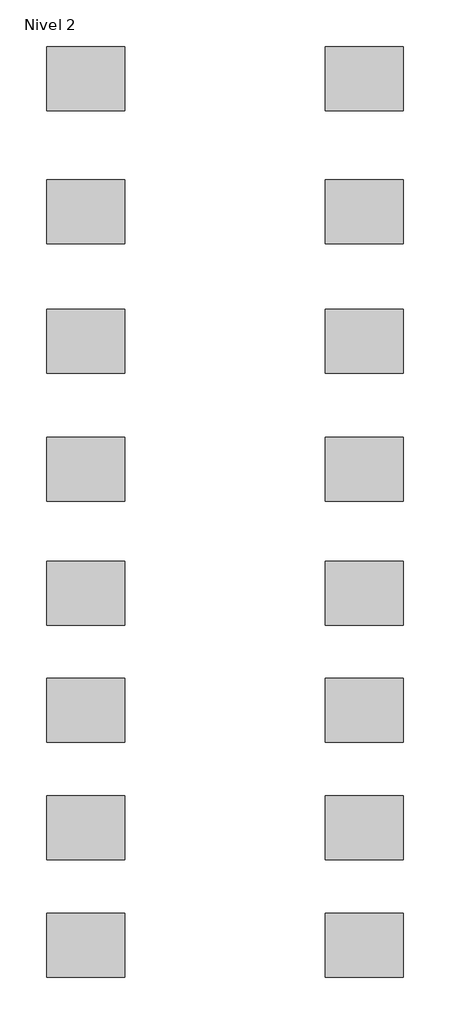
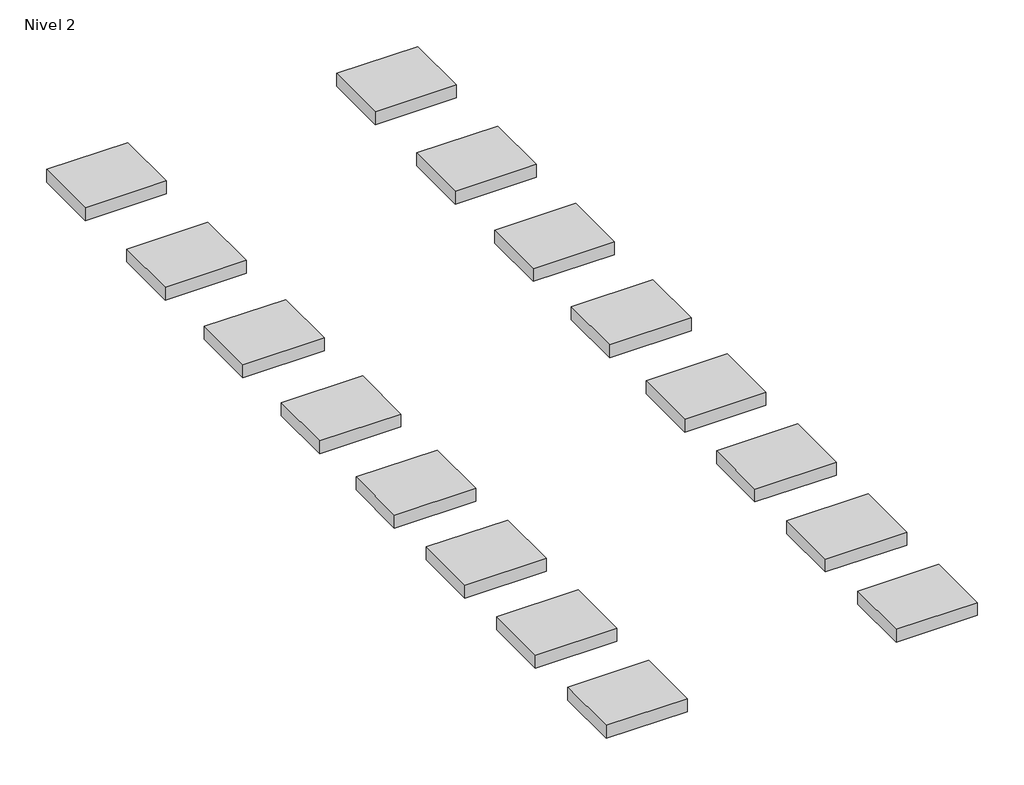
# One storey: 16 furniture elements.
"""IFC4 building model written with IfcOpenShell, lengths in millimetres."""

import ifcopenshell
import ifcopenshell.guid

model = None  # the IFC model being written
_history = None  # IfcOwnerHistory: only IFC2X3 demands one
_inside = {}  # id of a spatial element -> (the spatial element, [elements in it])
_under = {}  # id of a project, library or spatial element -> (it, [spatial elements below it])
_declared = {}  # id of a project -> (the project, [libraries it declares])
_typed = {}  # id of a type object -> (the type object, [elements of that type])
_made_of = {}  # id of a material, layer set ... -> (it, [elements and type objects made of it])


def new_model(schema):
    """Start an empty IFC model of exactly this schema.

    Asked for "IFC4X3", IfcOpenShell would pick the latest addendum, in which some entities
    have other attributes; the version numbers below select the first issue.
    IFC2X3 requires an IfcOwnerHistory on every rooted entity: one is made here for all.
    """
    global model, _history
    if schema == "IFC4X3":
        model = ifcopenshell.file(schema_version=(4, 3, 0, 0))
    else:
        model = ifcopenshell.file(schema=schema)
    _inside.clear()
    _under.clear()
    _declared.clear()
    _typed.clear()
    _made_of.clear()
    _history = None
    if model.schema == "IFC2X3":
        org = make("IfcOrganization", Name="unknown")
        user = make(
            "IfcPersonAndOrganization",
            ThePerson=make("IfcPerson", FamilyName="unknown"),
            TheOrganization=org,
        )
        app = make(
            "IfcApplication",
            ApplicationDeveloper=org,
            Version="unknown",
            ApplicationFullName="unknown",
            ApplicationIdentifier="unknown",
        )
        _history = make(
            "IfcOwnerHistory",
            OwningUser=user,
            OwningApplication=app,
            ChangeAction="ADDED",
            CreationDate=0,
        )
    return model


def make(cls, **values):
    """One entity of the class cls with the attributes given. An attribute that is None is left unset."""
    return model.create_entity(
        cls, **{name: value for name, value in values.items() if value is not None}
    )


def rooted(cls, **values):
    """An entity with a GlobalId (a new one), such as an element, a storey or a relation."""
    return make(cls, GlobalId=ifcopenshell.guid.new(), OwnerHistory=_history, **values)


def si_unit(unit_type, name, prefix=None):
    """IfcSIUnit, for example si_unit("LENGTHUNIT", "METRE", prefix="MILLI")."""
    return make("IfcSIUnit", UnitType=unit_type, Prefix=prefix, Name=name)


def assignment(units):
    """IfcUnitAssignment: the units of a project."""
    return None if units is None else make("IfcUnitAssignment", Units=units)


def point(xyz):
    """IfcCartesianPoint."""
    return None if xyz is None else make("IfcCartesianPoint", Coordinates=xyz)


def direction(xyz):
    """IfcDirection."""
    return None if xyz is None else make("IfcDirection", DirectionRatios=xyz)


def frame(location, z_axis=None, x_axis=None):
    """IfcAxis2Placement3D, a coordinate frame: its origin and axes. An axis left out is left unset."""
    return make(
        "IfcAxis2Placement3D",
        Location=point(location),
        Axis=direction(z_axis),
        RefDirection=direction(x_axis),
    )


def origin():
    """The frame at (0, 0, 0) with its axes left unset."""
    return frame((0.0, 0.0, 0.0))


def origin_with_axes():
    """The frame at (0, 0, 0) with the z axis (0, 0, 1) and the x axis (1, 0, 0) written out."""
    return frame((0.0, 0.0, 0.0), z_axis=(0.0, 0.0, 1.0), x_axis=(1.0, 0.0, 0.0))


def place(relative_to, where):
    """IfcLocalPlacement: puts the frame where relative to a parent placement (None: the world)."""
    return make(
        "IfcLocalPlacement", PlacementRelTo=relative_to, RelativePlacement=where
    )


def context(
    kind, dimensions, precision=None, world=None, true_north=None, identifier=None
):
    """IfcGeometricRepresentationContext, for example the 3D "Model" context."""
    return make(
        "IfcGeometricRepresentationContext",
        ContextIdentifier=identifier,
        ContextType=kind,
        CoordinateSpaceDimension=dimensions,
        Precision=precision,
        WorldCoordinateSystem=world,
        TrueNorth=true_north,
    )


def project(units=None, contexts=None):
    """IfcProject with its units and contexts."""
    return rooted(
        "IfcProject",
        Name="project",
        RepresentationContexts=contexts,
        UnitsInContext=assignment(units),
    )


def spatial(cls, under=None, at=None, **own):
    """A site, building, storey or space (cls), placed at a placement, below another one or the project."""
    s = rooted(cls, ObjectPlacement=at, **own)
    if under is not None:
        _under.setdefault(under.id(), (under, []))[1].append(s)
    return s


def polyline(points):
    """IfcPolyline through the points."""
    return make("IfcPolyline", Points=[point(p) for p in points])


def outline(outer, holes=None, kind="AREA"):
    """IfcArbitraryClosedProfileDef: a profile drawn as a closed curve; with holes, ...WithVoids."""
    if holes is None:
        return make("IfcArbitraryClosedProfileDef", ProfileType=kind, OuterCurve=outer)
    return make(
        "IfcArbitraryProfileDefWithVoids",
        ProfileType=kind,
        OuterCurve=outer,
        InnerCurves=holes,
    )


def extrude(swept, where, along, depth):
    """IfcExtrudedAreaSolid: the profile swept, set in the frame where, extruded along a direction by depth."""
    return make(
        "IfcExtrudedAreaSolid",
        SweptArea=swept,
        Position=where,
        ExtrudedDirection=direction(along),
        Depth=depth,
    )


def shape(context_of_items, identifier, shape_type, items):
    """IfcShapeRepresentation: the items that make up one representation, for example the "Body"."""
    return make(
        "IfcShapeRepresentation",
        ContextOfItems=context_of_items,
        RepresentationIdentifier=identifier,
        RepresentationType=shape_type,
        Items=items,
    )


def source(mapping_origin, context_of_items, identifier, shape_type, items):
    """IfcRepresentationMap: a shape defined once, which mapped items show again and again."""
    return make(
        "IfcRepresentationMap",
        MappingOrigin=mapping_origin,
        MappedRepresentation=shape(context_of_items, identifier, shape_type, items),
    )


def transform(
    local_origin,
    x_axis=None,
    y_axis=None,
    z_axis=None,
    scale=None,
    scale2=None,
    scale3=None,
    uniform=True,
):
    """IfcCartesianTransformationOperator3D, or its non-uniform kind. x_axis, y_axis, z_axis: its Axis1, 2, 3."""
    if uniform:
        return make(
            "IfcCartesianTransformationOperator3D",
            Axis1=direction(x_axis),
            Axis2=direction(y_axis),
            LocalOrigin=point(local_origin),
            Scale=scale,
            Axis3=direction(z_axis),
        )
    return make(
        "IfcCartesianTransformationOperator3DnonUniform",
        Axis1=direction(x_axis),
        Axis2=direction(y_axis),
        LocalOrigin=point(local_origin),
        Scale=scale,
        Axis3=direction(z_axis),
        Scale2=scale2,
        Scale3=scale3,
    )


def mapped(mapping_source, mapping_target):
    """IfcMappedItem: shows the shape of a source again, moved by a transform."""
    return make(
        "IfcMappedItem", MappingSource=mapping_source, MappingTarget=mapping_target
    )


def made_of(thing, what):
    """Note that an element or type object is made of a material, layer set ...; save() writes the relation."""
    if what is not None:
        _made_of.setdefault(what.id(), (what, []))[1].append(thing)
    return thing


def element(
    cls,
    number,
    at=None,
    inside=None,
    cuts=None,
    type_object=None,
    material=None,
    context=None,
    identifier="Body",
    shape_type=None,
    held_by="IfcProductDefinitionShape",
    body=None,
    shapes=None,
    **own,
):
    """One element of the class cls, such as IfcWall. Its Tag is "e" and its number.

    at: its placement. inside: the storey or other place that contains it. cuts: it is an
    opening in that element (IfcRelVoidsElement). A single representation is given by context,
    identifier, shape_type and body (its items); several are given by shapes. held_by: the class
    of the entity that holds the representations. save() writes the other relations.
    """
    e = rooted(cls, Tag="e%d" % number, ObjectPlacement=at, **own)
    if body is not None:
        shapes = [shape(context, identifier, shape_type, body)]
    if shapes is not None:
        e.Representation = make(held_by, Representations=shapes)
    if inside is not None:
        _inside.setdefault(inside.id(), (inside, []))[1].append(e)
    if cuts is not None:
        rooted(
            "IfcRelVoidsElement", RelatingBuildingElement=cuts, RelatedOpeningElement=e
        )
    if type_object is not None:
        _typed.setdefault(type_object.id(), (type_object, []))[1].append(e)
    return made_of(e, material)


def aggregate(whole, parts):
    """IfcRelAggregates: a whole, such as a stair, and the parts it consists of."""
    return rooted("IfcRelAggregates", RelatingObject=whole, RelatedObjects=parts)


def save(model, path):
    """Write the relations noted so far, then the file.

    IfcRelAggregates (storeys below a building ...), IfcRelContainedInSpatialStructure (elements
    in a storey), IfcRelDefinesByType, IfcRelAssociatesMaterial and IfcRelDeclares: one each for
    every whole, place, type object, material and project.
    """
    for whole, parts in _under.values():
        aggregate(whole, parts)
    for where, things in _inside.values():
        rooted(
            "IfcRelContainedInSpatialStructure",
            RelatedElements=things,
            RelatingStructure=where,
        )
    for kind, things in _typed.values():
        rooted("IfcRelDefinesByType", RelatedObjects=things, RelatingType=kind)
    for what, things in _made_of.values():
        rooted("IfcRelAssociatesMaterial", RelatedObjects=things, RelatingMaterial=what)
    for by, libraries in _declared.values():
        rooted("IfcRelDeclares", RelatingContext=by, RelatedDefinitions=libraries)
    model.write(path)


def furniture_fc90d0a3(model_context):
    return source(origin(), model_context, "Body", "SweptSolid", [
        extrude(outline(polyline([(741.9098791, 608.4877608), (741.9098791, -608.4877608), (-741.9098791, -608.4877608), (-741.9098791, 608.4877608), (741.9098791, 608.4877608)])), origin_with_axes(), (0.0, 0.0, 1.0), 250.0),
    ])


model = new_model("IFC4")

# Units and contexts
model_context = context("Model", 3, world=origin())
ifc_project = project(units=[si_unit("LENGTHUNIT", "METRE", prefix="MILLI")], contexts=[model_context])

# Site, building, storey
site = spatial("IfcSite", under=ifc_project)
building = spatial("IfcBuilding", under=site)
storey = spatial("IfcBuildingStorey", under=building, Name="Nivel 2", Elevation=4000.0)

# Furniture
placement = place(None, origin())
furniture_shape = furniture_fc90d0a3(model_context)
element("IfcFurniture", 1, ObjectType="Malaga : Malaga 09", at=placement, inside=storey, context=model_context, shape_type="MappedRepresentation", body=[
    mapped(furniture_shape, transform((-9674.6867993, 5160.919512, 4000.0), x_axis=(1.0, 0.0, 0.0), y_axis=(0.0, 1.0, 0.0), z_axis=(0.0, 0.0, 1.0))),
])
element("IfcFurniture", 2, ObjectType="Malaga : Malaga 10", at=placement, inside=storey, context=model_context, shape_type="MappedRepresentation", body=[
    mapped(furniture_shape, transform((-9674.6867993, 2628.1002461, 4000.0), x_axis=(1.0, 0.0, 0.0), y_axis=(0.0, 1.0, 0.0), z_axis=(0.0, 0.0, 1.0))),
])
element("IfcFurniture", 3, ObjectType="Malaga : Malaga 27", at=placement, inside=storey, context=model_context, shape_type="MappedRepresentation", body=[
    mapped(furniture_shape, transform((-9674.6867993, 162.8228274, 4000.0), x_axis=(1.0, 0.0, 0.0), y_axis=(0.0, 1.0, 0.0), z_axis=(0.0, 0.0, 1.0))),
])
element("IfcFurniture", 4, ObjectType="Malaga : Malaga 30", at=placement, inside=storey, context=model_context, shape_type="MappedRepresentation", body=[
    mapped(furniture_shape, transform((-9674.6867993, -2268.6836678, 4000.0), x_axis=(1.0, 0.0, 0.0), y_axis=(0.0, 1.0, 0.0), z_axis=(0.0, 0.0, 1.0))),
])
element("IfcFurniture", 5, ObjectType="Malaga : Malaga 51", at=placement, inside=storey, context=model_context, shape_type="MappedRepresentation", body=[
    mapped(furniture_shape, transform((-9674.6867993, -4632.6483159, 4000.0), x_axis=(1.0, 0.0, 0.0), y_axis=(0.0, 1.0, 0.0), z_axis=(0.0, 0.0, 1.0))),
])
element("IfcFurniture", 6, ObjectType="Malaga : Malaga 56", at=placement, inside=storey, context=model_context, shape_type="MappedRepresentation", body=[
    mapped(furniture_shape, transform((-9674.6867993, -6861.5292699, 4000.0), x_axis=(1.0, 0.0, 0.0), y_axis=(0.0, 1.0, 0.0), z_axis=(0.0, 0.0, 1.0))),
])
element("IfcFurniture", 7, ObjectType="Malaga : Malaga 90", at=placement, inside=storey, context=model_context, shape_type="MappedRepresentation", body=[
    mapped(furniture_shape, transform((-9674.6867993, -9090.4102238, 4000.0), x_axis=(1.0, 0.0, 0.0), y_axis=(0.0, 1.0, 0.0), z_axis=(0.0, 0.0, 1.0))),
])
element("IfcFurniture", 8, ObjectType="Malaga : Malaga 109", at=placement, inside=storey, context=model_context, shape_type="MappedRepresentation", body=[
    mapped(furniture_shape, transform((-9674.6867993, -11332.6483159, 4000.0), x_axis=(1.0, 0.0, 0.0), y_axis=(0.0, 1.0, 0.0), z_axis=(0.0, 0.0, 1.0))),
])
element("IfcFurniture", 9, ObjectType="Malaga : Malaga 271", at=placement, inside=storey, context=model_context, shape_type="MappedRepresentation", body=[
    mapped(furniture_shape, transform((-4374.6867993, 5160.919512, 4000.0), x_axis=(1.0, 0.0, 0.0), y_axis=(0.0, 1.0, 0.0), z_axis=(0.0, 0.0, 1.0))),
])
element("IfcFurniture", 10, ObjectType="Malaga : Malaga 300", at=placement, inside=storey, context=model_context, shape_type="MappedRepresentation", body=[
    mapped(furniture_shape, transform((-4374.6867993, 2628.1002461, 4000.0), x_axis=(1.0, 0.0, 0.0), y_axis=(0.0, 1.0, 0.0), z_axis=(0.0, 0.0, 1.0))),
])
element("IfcFurniture", 11, ObjectType="Malaga : Malaga 336", at=placement, inside=storey, context=model_context, shape_type="MappedRepresentation", body=[
    mapped(furniture_shape, transform((-4374.6867993, 162.8228274, 4000.0), x_axis=(1.0, 0.0, 0.0), y_axis=(0.0, 1.0, 0.0), z_axis=(0.0, 0.0, 1.0))),
])
element("IfcFurniture", 12, ObjectType="Malaga : Malaga 347", at=placement, inside=storey, context=model_context, shape_type="MappedRepresentation", body=[
    mapped(furniture_shape, transform((-4374.6867993, -2268.6836678, 4000.0), x_axis=(1.0, 0.0, 0.0), y_axis=(0.0, 1.0, 0.0), z_axis=(0.0, 0.0, 1.0))),
])
element("IfcFurniture", 13, ObjectType="Malaga : Malaga 357", at=placement, inside=storey, context=model_context, shape_type="MappedRepresentation", body=[
    mapped(furniture_shape, transform((-4374.6867993, -4632.6483159, 4000.0), x_axis=(1.0, 0.0, 0.0), y_axis=(0.0, 1.0, 0.0), z_axis=(0.0, 0.0, 1.0))),
])
element("IfcFurniture", 14, ObjectType="Malaga : Malaga 407", at=placement, inside=storey, context=model_context, shape_type="MappedRepresentation", body=[
    mapped(furniture_shape, transform((-4374.6867993, -6861.5292699, 4000.0), x_axis=(1.0, 0.0, 0.0), y_axis=(0.0, 1.0, 0.0), z_axis=(0.0, 0.0, 1.0))),
])
element("IfcFurniture", 15, ObjectType="Malaga : Malaga 1271", at=placement, inside=storey, context=model_context, shape_type="MappedRepresentation", body=[
    mapped(furniture_shape, transform((-4374.6867993, -9090.4102238, 4000.0), x_axis=(1.0, 0.0, 0.0), y_axis=(0.0, 1.0, 0.0), z_axis=(0.0, 0.0, 1.0))),
])
element("IfcFurniture", 16, ObjectType="Malaga : Malaga 1347", at=placement, inside=storey, context=model_context, shape_type="MappedRepresentation", body=[
    mapped(furniture_shape, transform((-4374.6867993, -11332.6483159, 4000.0), x_axis=(1.0, 0.0, 0.0), y_axis=(0.0, 1.0, 0.0), z_axis=(0.0, 0.0, 1.0))),
])

save(model, "model.ifc")
